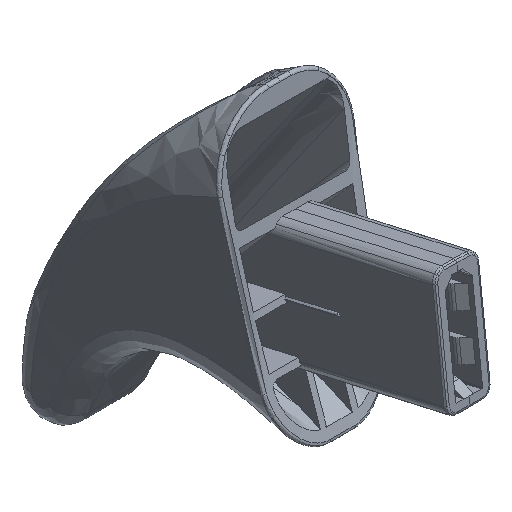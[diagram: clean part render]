
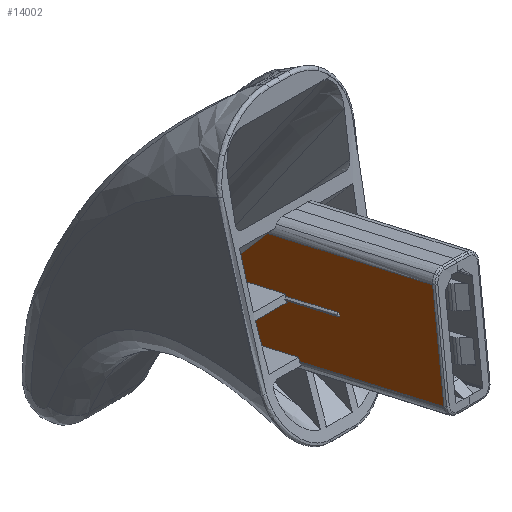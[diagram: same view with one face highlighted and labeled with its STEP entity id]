
A CAD part, isometric view. The second image highlights one B-rep face of the part: STEP entity #14002.
In plain terms, the highlighted planar face has unit normal (-0.996, -0.062, 0.067).
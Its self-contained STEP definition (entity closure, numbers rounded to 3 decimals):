
#13959=AXIS2_PLACEMENT_3D('Plane Axis2P3D',#13956,#13957,#13958) ;
#9388=CARTESIAN_POINT('Vertex',(144.596,-472.641,979.294)) ;
#9411=CARTESIAN_POINT('Control Point',(143.597,-475.767,961.596)) ;
#9412=CARTESIAN_POINT('Control Point',(144.596,-472.641,979.294)) ;
#9413=CARTESIAN_POINT('Vertex',(143.597,-475.767,961.596)) ;
#9439=CARTESIAN_POINT('Vertex',(142.82,-456.727,967.735)) ;
#9463=CARTESIAN_POINT('Vertex',(142.787,-456.831,967.145)) ;
#9467=CARTESIAN_POINT('Control Point',(142.824,-456.779,967.739)) ;
#9468=CARTESIAN_POINT('Control Point',(142.824,-456.78,967.739)) ;
#9469=CARTESIAN_POINT('Control Point',(142.824,-456.781,967.739)) ;
#9470=CARTESIAN_POINT('Control Point',(142.824,-456.783,967.739)) ;
#9471=CARTESIAN_POINT('Control Point',(142.824,-456.785,967.739)) ;
#9472=CARTESIAN_POINT('Control Point',(142.825,-456.795,967.739)) ;
#9473=CARTESIAN_POINT('Control Point',(142.825,-456.797,967.74)) ;
#9474=CARTESIAN_POINT('Control Point',(142.827,-456.838,967.736)) ;
#9475=CARTESIAN_POINT('Control Point',(142.829,-456.89,967.72)) ;
#9476=CARTESIAN_POINT('Control Point',(142.83,-456.914,967.709)) ;
#9477=CARTESIAN_POINT('Control Point',(142.831,-456.969,967.676)) ;
#9478=CARTESIAN_POINT('Control Point',(142.831,-457.014,967.629)) ;
#9479=CARTESIAN_POINT('Control Point',(142.83,-457.036,967.599)) ;
#9480=CARTESIAN_POINT('Control Point',(142.827,-457.077,967.517)) ;
#9481=CARTESIAN_POINT('Control Point',(142.821,-457.085,967.424)) ;
#9482=CARTESIAN_POINT('Control Point',(142.817,-457.077,967.368)) ;
#9483=CARTESIAN_POINT('Control Point',(142.811,-457.05,967.298)) ;
#9484=CARTESIAN_POINT('Control Point',(142.804,-457.004,967.242)) ;
#9485=CARTESIAN_POINT('Control Point',(142.802,-456.992,967.228)) ;
#9486=CARTESIAN_POINT('Control Point',(142.798,-456.954,967.193)) ;
#9487=CARTESIAN_POINT('Control Point',(142.793,-456.909,967.167)) ;
#9488=CARTESIAN_POINT('Control Point',(142.79,-456.874,967.154)) ;
#9489=CARTESIAN_POINT('Control Point',(142.788,-456.848,967.149)) ;
#9490=CARTESIAN_POINT('Control Point',(142.787,-456.831,967.145)) ;
#9507=CARTESIAN_POINT('Vertex',(141.093,-434.287,962.954)) ;
#9529=CARTESIAN_POINT('Vertex',(139.982,-426.505,953.71)) ;
#9532=CARTESIAN_POINT('Line Origine',(140.538,-430.396,958.332)) ;
#11194=CARTESIAN_POINT('Vertex',(141.728,-450.58,957.253)) ;
#11198=CARTESIAN_POINT('Control Point',(141.754,-450.373,957.825)) ;
#11199=CARTESIAN_POINT('Control Point',(141.745,-450.442,957.634)) ;
#11200=CARTESIAN_POINT('Control Point',(141.737,-450.511,957.444)) ;
#11201=CARTESIAN_POINT('Control Point',(141.728,-450.58,957.253)) ;
#11202=CARTESIAN_POINT('Vertex',(141.754,-450.373,957.825)) ;
#11224=CARTESIAN_POINT('Vertex',(142.099,-447.846,965.292)) ;
#11228=CARTESIAN_POINT('Control Point',(142.113,-447.755,965.581)) ;
#11229=CARTESIAN_POINT('Control Point',(142.109,-447.785,965.484)) ;
#11230=CARTESIAN_POINT('Control Point',(142.104,-447.816,965.388)) ;
#11231=CARTESIAN_POINT('Control Point',(142.099,-447.846,965.292)) ;
#11232=CARTESIAN_POINT('Vertex',(142.113,-447.755,965.581)) ;
#11251=CARTESIAN_POINT('Vertex',(142.141,-447.574,966.157)) ;
#11255=CARTESIAN_POINT('Control Point',(142.155,-447.483,966.445)) ;
#11256=CARTESIAN_POINT('Control Point',(142.15,-447.513,966.349)) ;
#11257=CARTESIAN_POINT('Control Point',(142.145,-447.543,966.253)) ;
#11258=CARTESIAN_POINT('Control Point',(142.141,-447.574,966.157)) ;
#11259=CARTESIAN_POINT('Vertex',(142.155,-447.483,966.445)) ;
#13870=CARTESIAN_POINT('Control Point',(142.46,-443.864,974.332)) ;
#13871=CARTESIAN_POINT('Control Point',(142.517,-444.629,974.464)) ;
#13872=CARTESIAN_POINT('Control Point',(142.574,-445.395,974.596)) ;
#13873=CARTESIAN_POINT('Control Point',(142.631,-446.161,974.728)) ;
#13874=CARTESIAN_POINT('Control Point',(143.058,-451.916,975.72)) ;
#13875=CARTESIAN_POINT('Control Point',(143.485,-457.671,976.713)) ;
#13876=CARTESIAN_POINT('Control Point',(143.855,-462.661,977.573)) ;
#13877=CARTESIAN_POINT('Control Point',(144.226,-467.651,978.434)) ;
#13878=CARTESIAN_POINT('Control Point',(144.596,-472.641,979.294)) ;
#13879=CARTESIAN_POINT('Vertex',(142.46,-443.864,974.332)) ;
#13905=CARTESIAN_POINT('Vertex',(141.264,-435.484,964.376)) ;
#13910=CARTESIAN_POINT('Line Origine',(141.862,-439.674,969.354)) ;
#13936=CARTESIAN_POINT('Line Origine',(141.709,-441.484,965.411)) ;
#13956=CARTESIAN_POINT('Axis2P3D Location',(144.797,-473.124,981.818)) ;
#13961=CARTESIAN_POINT('Line Origine',(142.663,-463.173,959.424)) ;
#13966=CARTESIAN_POINT('Line Origine',(142.48,-452.15,966.946)) ;
#13971=CARTESIAN_POINT('Line Origine',(142.45,-452.293,966.363)) ;
#13976=CARTESIAN_POINT('Line Origine',(141.596,-441.066,964.123)) ;
#13981=CARTESIAN_POINT('Line Origine',(140.868,-438.439,955.767)) ;
#9533=DIRECTION('Vector Direction',(0.092,-0.641,0.762)) ;
#13911=DIRECTION('Vector Direction',(0.092,-0.641,0.762)) ;
#13937=DIRECTION('Vector Direction',(-0.073,0.983,-0.169)) ;
#13957=DIRECTION('Axis2P3D Direction',(-0.996,-0.062,0.067)) ;
#13958=DIRECTION('Axis2P3D XDirection',(-0.073,0.983,-0.169)) ;
#13962=DIRECTION('Vector Direction',(0.073,-0.983,0.169)) ;
#13967=DIRECTION('Vector Direction',(-0.073,0.983,-0.169)) ;
#13972=DIRECTION('Vector Direction',(0.073,-0.983,0.169)) ;
#13977=DIRECTION('Vector Direction',(-0.073,0.983,-0.169)) ;
#13982=DIRECTION('Vector Direction',(-0.073,0.983,-0.169)) ;
#9534=VECTOR('Line Direction',#9533,1.) ;
#13912=VECTOR('Line Direction',#13911,1.) ;
#13938=VECTOR('Line Direction',#13937,1.) ;
#13963=VECTOR('Line Direction',#13962,1.) ;
#13968=VECTOR('Line Direction',#13967,1.) ;
#13973=VECTOR('Line Direction',#13972,1.) ;
#13978=VECTOR('Line Direction',#13977,1.) ;
#13983=VECTOR('Line Direction',#13982,1.) ;
#13987=ORIENTED_EDGE('',*,*,#13965,.T.) ;
#13988=ORIENTED_EDGE('',*,*,#9415,.T.) ;
#13989=ORIENTED_EDGE('',*,*,#13881,.T.) ;
#13990=ORIENTED_EDGE('',*,*,#13914,.F.) ;
#13991=ORIENTED_EDGE('',*,*,#13940,.F.) ;
#13992=ORIENTED_EDGE('',*,*,#11261,.T.) ;
#13993=ORIENTED_EDGE('',*,*,#13970,.F.) ;
#13994=ORIENTED_EDGE('',*,*,#9491,.T.) ;
#13995=ORIENTED_EDGE('',*,*,#13975,.F.) ;
#13996=ORIENTED_EDGE('',*,*,#11234,.T.) ;
#13997=ORIENTED_EDGE('',*,*,#13980,.T.) ;
#13998=ORIENTED_EDGE('',*,*,#9536,.F.) ;
#13999=ORIENTED_EDGE('',*,*,#13985,.F.) ;
#14000=ORIENTED_EDGE('',*,*,#11204,.T.) ;
#14002=ADVANCED_FACE('\X2\96F64EF651E04F554F53\X0\',(#14001),#13960,.T.) ;
#9466=B_SPLINE_CURVE_WITH_KNOTS('',5,(#9467,#9468,#9469,#9470,#9471,#9472,#9473,#9474,#9475,#9476,#9477,#9478,#9479,#9480,#9481,#9482,#9483,#9484,#9485,#9486,#9487,#9488,#9489,#9490),.UNSPECIFIED.,.F.,.U.,(6,3,3,3,3,3,3,6),(0.,0.298,0.462,0.657,0.914,1.3,1.429,1.667),.UNSPECIFIED.) ;
#11197=B_SPLINE_CURVE_WITH_KNOTS('',3,(#11198,#11199,#11200,#11201),.UNSPECIFIED.,.F.,.U.,(4,4),(28.398,29.377),.UNSPECIFIED.) ;
#11227=B_SPLINE_CURVE_WITH_KNOTS('',3,(#11228,#11229,#11230,#11231),.UNSPECIFIED.,.F.,.U.,(4,4),(15.184,15.674),.UNSPECIFIED.) ;
#11254=B_SPLINE_CURVE_WITH_KNOTS('',3,(#11255,#11256,#11257,#11258),.UNSPECIFIED.,.F.,.U.,(4,4),(13.716,14.206),.UNSPECIFIED.) ;
#9415=EDGE_CURVE('',#9414,#9389,#9410,.T.) ;
#9491=EDGE_CURVE('',#9440,#9464,#9466,.T.) ;
#9536=EDGE_CURVE('',#9530,#9508,#9535,.T.) ;
#11204=EDGE_CURVE('',#11203,#11195,#11197,.T.) ;
#11234=EDGE_CURVE('',#11233,#11225,#11227,.T.) ;
#11261=EDGE_CURVE('',#11260,#11252,#11254,.T.) ;
#13881=EDGE_CURVE('',#9389,#13880,#13869,.F.) ;
#13914=EDGE_CURVE('',#13906,#13880,#13913,.T.) ;
#13940=EDGE_CURVE('',#11260,#13906,#13939,.T.) ;
#13965=EDGE_CURVE('',#11195,#9414,#13964,.T.) ;
#13970=EDGE_CURVE('',#9440,#11252,#13969,.T.) ;
#13975=EDGE_CURVE('',#11233,#9464,#13974,.T.) ;
#13980=EDGE_CURVE('',#11225,#9508,#13979,.T.) ;
#13985=EDGE_CURVE('',#11203,#9530,#13984,.T.) ;
#13986=EDGE_LOOP('',(#13987,#13988,#13989,#13990,#13991,#13992,#13993,#13994,#13995,#13996,#13997,#13998,#13999,#14000)) ;
#14001=FACE_OUTER_BOUND('',#13986,.T.) ;
#9535=LINE('Line',#9532,#9534) ;
#13913=LINE('Line',#13910,#13912) ;
#13939=LINE('Line',#13936,#13938) ;
#13964=LINE('Line',#13961,#13963) ;
#13969=LINE('Line',#13966,#13968) ;
#13974=LINE('Line',#13971,#13973) ;
#13979=LINE('Line',#13976,#13978) ;
#13984=LINE('Line',#13981,#13983) ;
#13960=PLANE('',#13959) ;
#9389=VERTEX_POINT('',#9388) ;
#9414=VERTEX_POINT('',#9413) ;
#9440=VERTEX_POINT('',#9439) ;
#9464=VERTEX_POINT('',#9463) ;
#9508=VERTEX_POINT('',#9507) ;
#9530=VERTEX_POINT('',#9529) ;
#11195=VERTEX_POINT('',#11194) ;
#11203=VERTEX_POINT('',#11202) ;
#11225=VERTEX_POINT('',#11224) ;
#11233=VERTEX_POINT('',#11232) ;
#11252=VERTEX_POINT('',#11251) ;
#11260=VERTEX_POINT('',#11259) ;
#13880=VERTEX_POINT('',#13879) ;
#13906=VERTEX_POINT('',#13905) ;
#9410=(BOUNDED_CURVE()B_SPLINE_CURVE(1,(#9411,#9412),.UNSPECIFIED.,.F.,.U.)B_SPLINE_CURVE_WITH_KNOTS((2,2),(-9.816,8.184),.UNSPECIFIED.)CURVE()GEOMETRIC_REPRESENTATION_ITEM()RATIONAL_B_SPLINE_CURVE((0.854,0.854))REPRESENTATION_ITEM('')) ;
#13869=(BOUNDED_CURVE()B_SPLINE_CURVE(5,(#13870,#13871,#13872,#13873,#13874,#13875,#13876,#13877,#13878),.UNSPECIFIED.,.F.,.U.)B_SPLINE_CURVE_WITH_KNOTS((6,3,6),(-12.517,-8.622,16.763),.UNSPECIFIED.)CURVE()GEOMETRIC_REPRESENTATION_ITEM()RATIONAL_B_SPLINE_CURVE((0.854,0.854,0.854,0.854,0.854,0.854,0.854,0.854,0.854))REPRESENTATION_ITEM('')) ;
